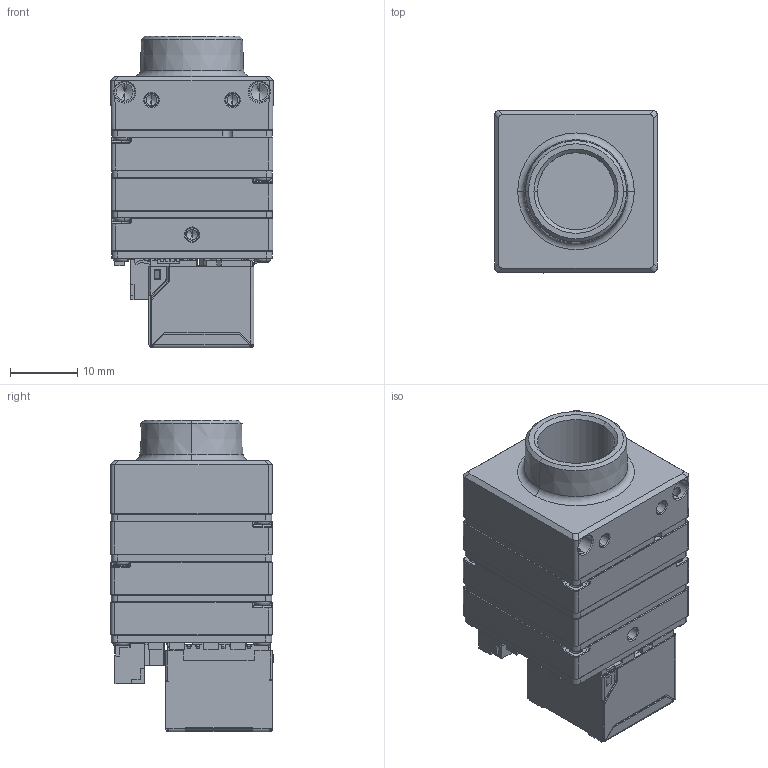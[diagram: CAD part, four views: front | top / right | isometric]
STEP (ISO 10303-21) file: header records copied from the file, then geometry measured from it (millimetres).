
FILE_DESCRIPTION (( 'STEP AP203' ), '1' );
FILE_NAME ('186-073-B.STEP', '2021-07-09T18:58:32', ( '' ), ( '' ), 'SwSTEP 2.0', 'SolidWorks 2017', '' );
FILE_SCHEMA (( 'CONFIG_CONTROL_DESIGN' ));
Products named in the file (1): 186-073-B
Bounding box: 24.13 x 24.15 x 46.31 mm (x, y, z)
Volume: 9535.1 mm3; surface area: 18798.5 mm2
Topology: 54 solids, 54 shells, 4755 faces, 12424 edges, 7687 vertices
Faces by surface type: plane 2810, cylinder 1194, bspline 291, cone 268, torus 128, sphere 64
Entity records: 148839 total; most frequent: CARTESIAN_POINT 33708, ORIENTED_EDGE 24504, DIRECTION 23091, EDGE_CURVE 12252, VECTOR 8843, LINE 8843, VERTEX_POINT 7683, AXIS2_PLACEMENT_3D 7124
